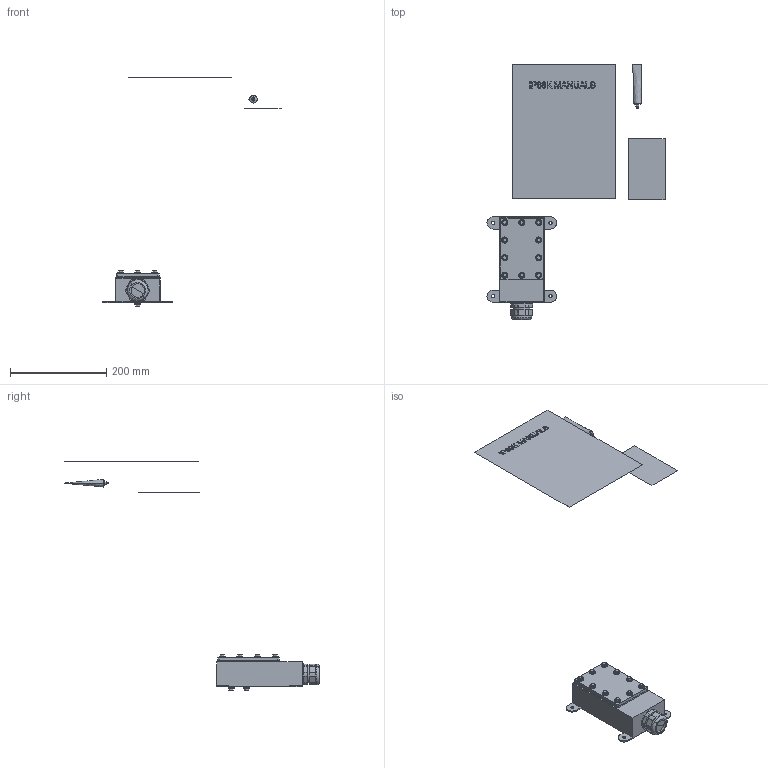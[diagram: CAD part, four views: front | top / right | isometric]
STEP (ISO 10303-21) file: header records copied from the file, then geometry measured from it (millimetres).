
FILE_DESCRIPTION (( 'STEP AP203' ), '1' );
FILE_NAME ('LD-FY.STEP', '2022-04-18T12:23:12', ( '' ), ( '' ), 'SwSTEP 2.0', 'SolidWorks 2021', '' );
FILE_SCHEMA (( 'CONFIG_CONTROL_DESIGN' ));
Length unit declared in the file: inch
Products named in the file (23): 500224; 200949; PG29-I01; 800005; PG29-01-01-01-01_.060 GAP; sr-x300_cable; 91292A112; TJS050023X; IP69K-KIT001; 800017; PG29-S01; 400254; SP-M5-2; 201277; 900002; PG29-B01; PG29-N01; 400102; S-1293; 93635A160_DEFAULT; 800004; 200950; LD-FY
Assembly tree (43 placements, depth 3):
  LD-FY
    200950
      200949
      SP-M5-2  x10
    201277
    400254
    500224
    PG29-01-01-01-01_.060 GAP
      PG29-B01
      PG29-I01
      PG29-S01
      PG29-N01
    800004  x10
      800005
      400102
    93635A160_DEFAULT  x2
    TJS050023X  x2
    91292A112  x2
    IP69K-KIT001
      S-1293
      800017
      900002
    sr-x300_cable
Bounding box: 370.59 x 530.15 x 475.42 mm (x, y, z)
Volume: 286205.2 mm3; surface area: 364270.7 mm2
Topology: 48 solids, 60 shells, 3307 faces, 9145 edges, 6067 vertices
Faces by surface type: cylinder 1409, plane 1405, cone 308, bspline 162, torus 23
Entity records: 80658 total; most frequent: CARTESIAN_POINT 37103, ORIENTED_EDGE 9050, DIRECTION 7091, EDGE_CURVE 4846, VERTEX_POINT 3246, AXIS2_PLACEMENT_3D 2428, LINE 2235, VECTOR 2235
